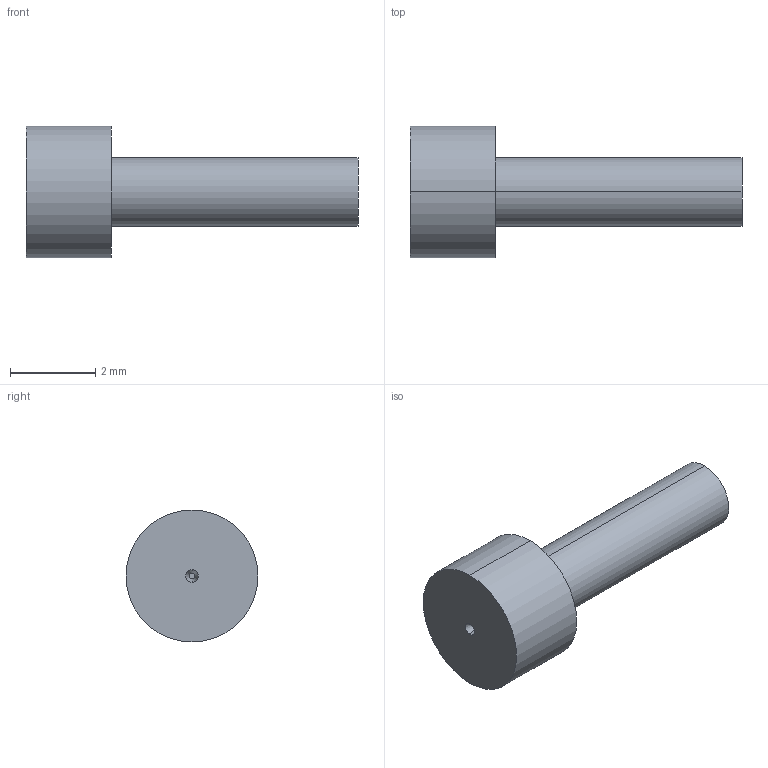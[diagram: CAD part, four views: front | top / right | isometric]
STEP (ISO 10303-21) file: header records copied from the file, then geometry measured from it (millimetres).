
FILE_DESCRIPTION (( 'STEP AP214' ), '1' );
FILE_NAME ('BR1302-5.STEP', '2020-06-15T17:22:06', ( 'August' ), ( '' ), 'SwSTEP 2.0', 'SolidWorks 2018', '' );
FILE_SCHEMA (( 'AUTOMOTIVE_DESIGN' ));
Length unit declared in the file: millimetre
Products named in the file (1): BR1302-5
Bounding box: 7.8 x 3.1 x 3.1 mm (x, y, z)
Volume: 26.7 mm3; surface area: 63.9 mm2
Topology: 1 solids, 1 shells, 10 faces, 18 edges, 12 vertices
Faces by surface type: cylinder 4, plane 4, cone 2
Entity records: 288 total; most frequent: DIRECTION 52, CARTESIAN_POINT 41, ORIENTED_EDGE 36, AXIS2_PLACEMENT_3D 23, EDGE_CURVE 18, VERTEX_POINT 12, EDGE_LOOP 12, CIRCLE 12
